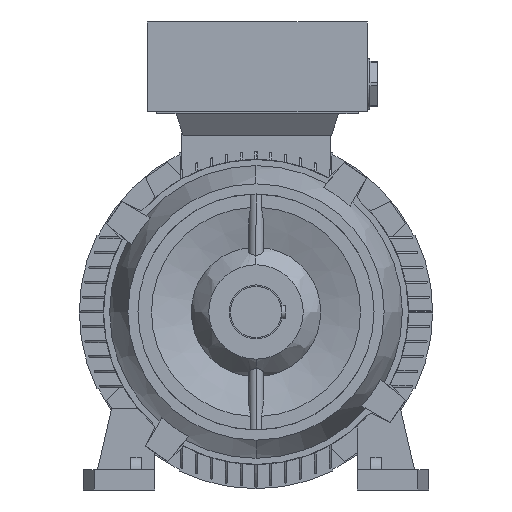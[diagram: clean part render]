
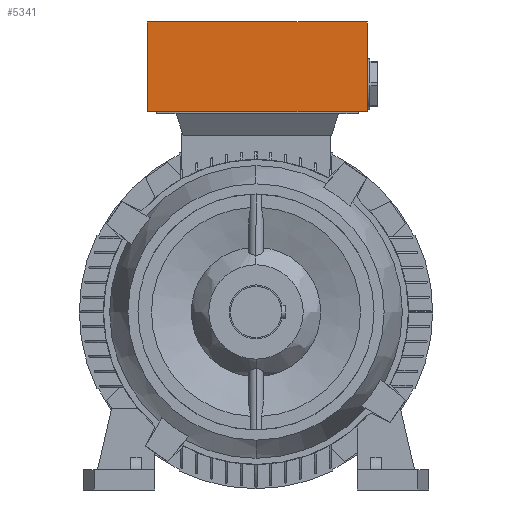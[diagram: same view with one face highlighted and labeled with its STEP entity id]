
A CAD part, left-side view. The second image highlights one B-rep face of the part: STEP entity #5341.
In plain terms, the highlighted planar face has unit normal (-1, 0, 0).
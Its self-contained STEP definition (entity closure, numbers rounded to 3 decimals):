
#5341 = ADVANCED_FACE ( 'NONE', ( #13563 ), #9992, .F. ) ;
#7575 = EDGE_CURVE ( 'NONE', #8877, #8875, #13975, .T. ) ;
#7577 = EDGE_CURVE ( 'NONE', #8868, #8875, #13978, .T. ) ;
#7581 = EDGE_CURVE ( 'NONE', #8870, #8877, #13985, .T. ) ;
#7593 = EDGE_CURVE ( 'NONE', #8868, #8870, #14001, .T. ) ;
#8868 = VERTEX_POINT ( 'NONE', #16643 ) ;
#8870 = VERTEX_POINT ( 'NONE', #16645 ) ;
#8875 = VERTEX_POINT ( 'NONE', #16650 ) ;
#8877 = VERTEX_POINT ( 'NONE', #16652 ) ;
#9992 = PLANE ( 'NONE',  #15486 ) ;
#9993 = CARTESIAN_POINT ( 'NONE',  ( -2., -1., 181.75 ) ) ;
#9998 = DIRECTION ( 'NONE',  ( 1., 0., 0. ) ) ;
#9999 = DIRECTION ( 'NONE',  ( 0., 0., -1. ) ) ;
#11970 = CARTESIAN_POINT ( 'NONE',  ( -2., -1., 148.5 ) ) ;
#11971 = DIRECTION ( 'NONE',  ( 0., 1., 0. ) ) ;
#11972 = CARTESIAN_POINT ( 'NONE',  ( -2., 80.5, 181.75 ) ) ;
#11974 = DIRECTION ( 'NONE',  ( 0., 0., -1. ) ) ;
#11978 = CARTESIAN_POINT ( 'NONE',  ( -2., -82.5, 181.75 ) ) ;
#11979 = DIRECTION ( 'NONE',  ( 0., 0., -1. ) ) ;
#11991 = CARTESIAN_POINT ( 'NONE',  ( -2., -1., 215. ) ) ;
#11992 = DIRECTION ( 'NONE',  ( 0., -1., 0. ) ) ;
#13563 = FACE_OUTER_BOUND ( 'NONE', #16318, .T. ) ;
#13975 = LINE ( 'NONE', #11970, #13979 ) ;
#13978 = LINE ( 'NONE', #11972, #13981 ) ;
#13979 = VECTOR ( 'NONE', #11971, 1000. ) ;
#13981 = VECTOR ( 'NONE', #11974, 1000. ) ;
#13985 = LINE ( 'NONE', #11978, #13988 ) ;
#13988 = VECTOR ( 'NONE', #11979, 1000. ) ;
#14001 = LINE ( 'NONE', #11991, #14004 ) ;
#14004 = VECTOR ( 'NONE', #11992, 1000. ) ;
#15486 = AXIS2_PLACEMENT_3D ( 'NONE', #9993, #9998, #9999 ) ;
#16111 = ORIENTED_EDGE ( 'NONE', *, *, #7581, .F. ) ;
#16112 = ORIENTED_EDGE ( 'NONE', *, *, #7593, .F. ) ;
#16113 = ORIENTED_EDGE ( 'NONE', *, *, #7577, .T. ) ;
#16114 = ORIENTED_EDGE ( 'NONE', *, *, #7575, .F. ) ;
#16318 = EDGE_LOOP ( 'NONE', ( #16111, #16112, #16113, #16114 ) ) ;
#16643 = CARTESIAN_POINT ( 'NONE',  ( -2., 80.5, 215. ) ) ;
#16645 = CARTESIAN_POINT ( 'NONE',  ( -2., -82.5, 215. ) ) ;
#16650 = CARTESIAN_POINT ( 'NONE',  ( -2., 80.5, 148.5 ) ) ;
#16652 = CARTESIAN_POINT ( 'NONE',  ( -2., -82.5, 148.5 ) ) ;
